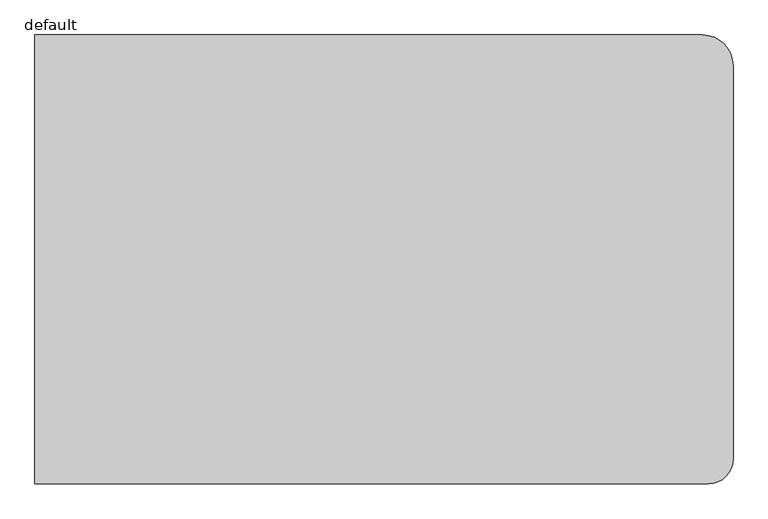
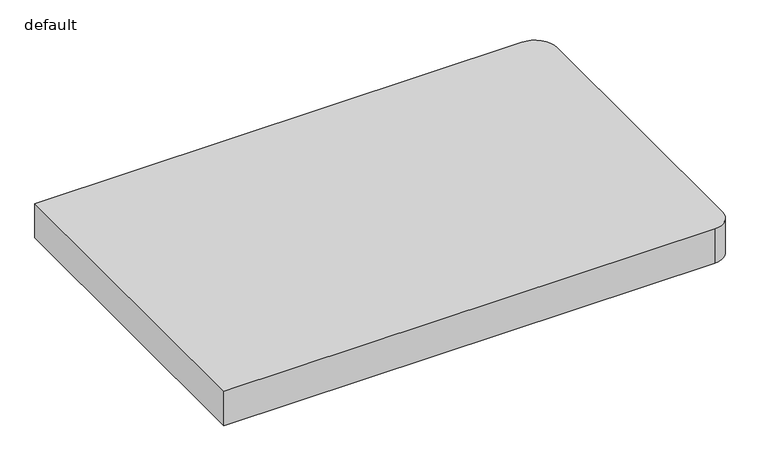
"""IFC4 building model written with IfcOpenShell, lengths in millimetres: flow terminal geometry, SP_душевой поддон_LEG : default."""

from ifc_helpers import new_model, si_unit, point, frame_2d, origin, origin_with_axes, place, context, project, spatial, polyline, circle_curve, trimmed, segment, composite_curve, outline, extrude, source, transform, mapped, element, save


def default_a7bc26c5(model_context):
    return source(origin(), model_context, "Body", "SweptSolid", [
        extrude(outline(composite_curve([segment(polyline([(0.0, 0.0), (0.0, 900.0), (1338.1, 900.0)]), True, "CONTINUOUS"), segment(trimmed(circle_curve(frame_2d((1338.1, 838.1)), 61.9), [point((1338.1, 900.0))], [point((1400.0, 838.1))], False, "CARTESIAN"), True, "CONTINUOUS"), segment(polyline([(1400.0, 838.1), (1400.0, 50.0)]), True, "CONTINUOUS"), segment(trimmed(circle_curve(frame_2d((1350.0, 50.0)), 50.0), [point((1400.0, 50.0))], [point((1350.0, 0.0))], False, "CARTESIAN"), True, "CONTINUOUS"), segment(polyline([(1350.0, 0.0), (0.0, 0.0)]), True, "CONTINUOUS")], self_intersect=False)), origin_with_axes(), (0.0, 0.0, 1.0), 100.0),
    ])


if __name__ == "__main__":
    model = new_model("IFC4")
    model_context = context("Model", 3, world=origin())
    ifc_project = project(units=[si_unit("LENGTHUNIT", "METRE", prefix="MILLI")], contexts=[model_context])
    site = spatial("IfcSite", under=ifc_project)
    building = spatial("IfcBuilding", under=site)
    placement = place(None, origin())
    default_shape = default_a7bc26c5(model_context)
    element("IfcFlowTerminal", 1, ObjectType="SP_душевой поддон_LEG : default", at=placement, inside=building, context=model_context, shape_type="MappedRepresentation", body=[
        mapped(default_shape, transform((0.0, 0.0, 0.0), x_axis=(1.0, 0.0, 0.0), y_axis=(0.0, 1.0, 0.0), z_axis=(0.0, 0.0, 1.0))),
    ])
    save(model, "model.ifc")
